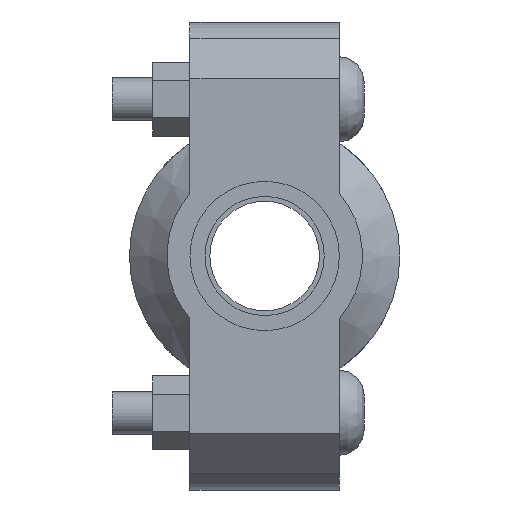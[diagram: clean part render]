
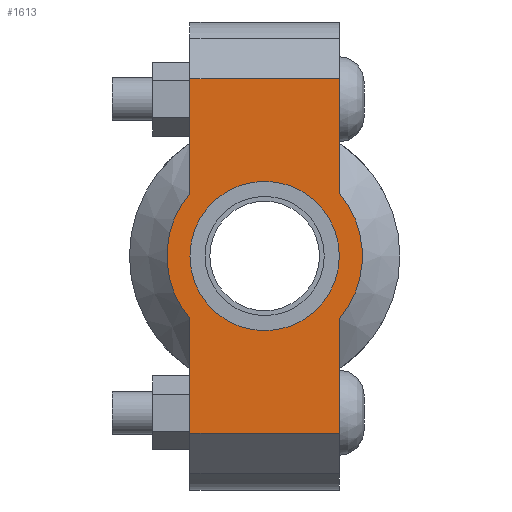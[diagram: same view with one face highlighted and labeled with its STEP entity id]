
A CAD part, left-side view. The second image highlights one B-rep face of the part: STEP entity #1613.
In plain terms, the highlighted planar face has unit normal (-1, 0, 0) as drawn and (0, 0, 1) by its records, which use the part's own axes.
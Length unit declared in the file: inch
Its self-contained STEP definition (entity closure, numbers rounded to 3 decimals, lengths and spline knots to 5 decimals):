
#168=LINE('',#2789,#265);
#183=LINE('',#2848,#280);
#191=LINE('',#2878,#288);
#193=LINE('',#2881,#290);
#194=LINE('',#2886,#291);
#195=LINE('',#2887,#292);
#265=VECTOR('',#2269,0.3937);
#280=VECTOR('',#2304,0.3937);
#288=VECTOR('',#2324,0.3937);
#290=VECTOR('',#2328,0.3937);
#291=VECTOR('',#2333,0.3937);
#292=VECTOR('',#2334,0.3937);
#356=FACE_BOUND('',#533,.T.);
#424=FACE_OUTER_BOUND('',#532,.T.);
#532=EDGE_LOOP('',(#1314,#1315,#1316,#1317,#1318,#1319,#1320,#1321));
#533=EDGE_LOOP('',(#1322));
#615=CIRCLE('',#1841,0.6575);
#639=CIRCLE('',#1893,0.86);
#640=CIRCLE('',#1894,0.86);
#711=VERTEX_POINT('',#2615);
#752=VERTEX_POINT('',#2786);
#753=VERTEX_POINT('',#2788);
#774=VERTEX_POINT('',#2843);
#775=VERTEX_POINT('',#2847);
#784=VERTEX_POINT('',#2873);
#785=VERTEX_POINT('',#2877);
#786=VERTEX_POINT('',#2883);
#787=VERTEX_POINT('',#2885);
#875=EDGE_CURVE('',#711,#711,#615,.T.);
#932=EDGE_CURVE('',#753,#752,#168,.T.);
#957=EDGE_CURVE('',#775,#774,#183,.T.);
#970=EDGE_CURVE('',#785,#784,#191,.T.);
#972=EDGE_CURVE('',#785,#752,#193,.T.);
#973=EDGE_CURVE('',#784,#786,#639,.T.);
#974=EDGE_CURVE('',#786,#787,#194,.T.);
#975=EDGE_CURVE('',#775,#787,#195,.T.);
#976=EDGE_CURVE('',#774,#753,#640,.T.);
#1314=ORIENTED_EDGE('',*,*,#972,.F.);
#1315=ORIENTED_EDGE('',*,*,#970,.T.);
#1316=ORIENTED_EDGE('',*,*,#973,.T.);
#1317=ORIENTED_EDGE('',*,*,#974,.T.);
#1318=ORIENTED_EDGE('',*,*,#975,.F.);
#1319=ORIENTED_EDGE('',*,*,#957,.T.);
#1320=ORIENTED_EDGE('',*,*,#976,.T.);
#1321=ORIENTED_EDGE('',*,*,#932,.T.);
#1322=ORIENTED_EDGE('',*,*,#875,.T.);
#1453=PLANE('',#1892);
#1613=ADVANCED_FACE('',(#424,#356),#1453,.T.);
#1841=AXIS2_PLACEMENT_3D('',#2617,#2159,#2160);
#1892=AXIS2_PLACEMENT_3D('',#2882,#2329,#2330);
#1893=AXIS2_PLACEMENT_3D('',#2884,#2331,#2332);
#1894=AXIS2_PLACEMENT_3D('',#2888,#2335,#2336);
#2159=DIRECTION('center_axis',(0.,0.,-1.));
#2160=DIRECTION('ref_axis',(-1.,0.,0.));
#2269=DIRECTION('',(-1.,0.,0.));
#2304=DIRECTION('',(-1.,0.,0.));
#2324=DIRECTION('',(1.,0.,0.));
#2328=DIRECTION('',(0.,1.,0.));
#2329=DIRECTION('center_axis',(0.,0.,1.));
#2330=DIRECTION('ref_axis',(1.,0.,0.));
#2331=DIRECTION('center_axis',(0.,0.,1.));
#2332=DIRECTION('ref_axis',(-1.,0.,0.));
#2333=DIRECTION('',(1.,0.,0.));
#2334=DIRECTION('',(0.,-1.,0.));
#2335=DIRECTION('center_axis',(0.,0.,1.));
#2336=DIRECTION('ref_axis',(-1.,0.,0.));
#2615=CARTESIAN_POINT('',(0.6575,0.,0.875));
#2617=CARTESIAN_POINT('Origin',(0.,0.,0.875));
#2786=CARTESIAN_POINT('',(-1.56,0.6575,0.875));
#2788=CARTESIAN_POINT('',(-0.55434,0.6575,0.875));
#2789=CARTESIAN_POINT('',(2.06,0.6575,0.875));
#2843=CARTESIAN_POINT('',(0.55434,0.6575,0.875));
#2847=CARTESIAN_POINT('',(1.56,0.6575,0.875));
#2848=CARTESIAN_POINT('',(2.06,0.6575,0.875));
#2873=CARTESIAN_POINT('',(-0.55434,-0.6575,0.875));
#2877=CARTESIAN_POINT('',(-1.56,-0.6575,0.875));
#2878=CARTESIAN_POINT('',(-2.06,-0.6575,0.875));
#2881=CARTESIAN_POINT('',(-1.56,0.32875,0.875));
#2882=CARTESIAN_POINT('Origin',(0.,0.,
0.875));
#2883=CARTESIAN_POINT('',(0.55434,-0.6575,0.875));
#2884=CARTESIAN_POINT('Origin',(0.,0.,0.875));
#2885=CARTESIAN_POINT('',(1.56,-0.6575,0.875));
#2886=CARTESIAN_POINT('',(-2.06,-0.6575,0.875));
#2887=CARTESIAN_POINT('',(1.56,-0.32875,0.875));
#2888=CARTESIAN_POINT('Origin',(0.,0.,0.875));
